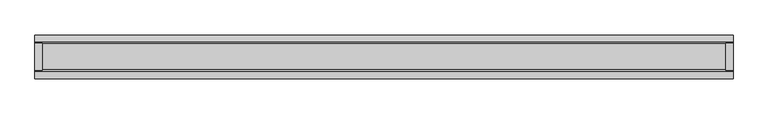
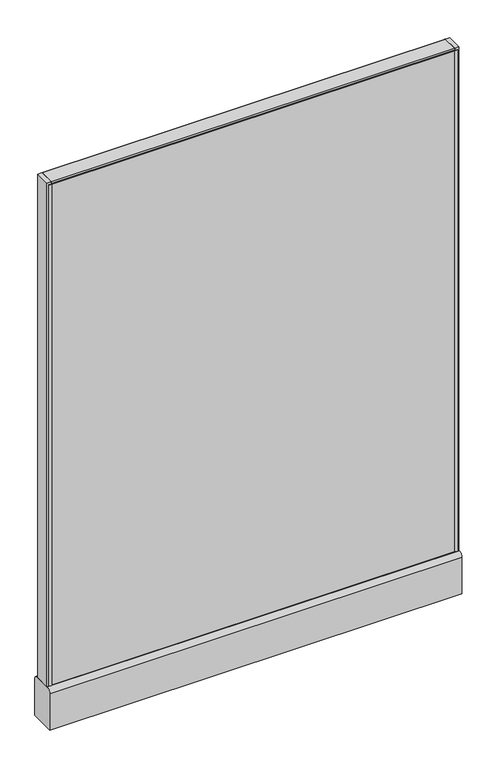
"""IFC4 building model written with IfcOpenShell, lengths in millimetres: furniture geometry."""

from ifc_helpers import new_model, si_unit, point, frame, frame_2d, origin, place, context, project, spatial, polyline, circle_curve, trimmed, segment, composite_curve, outline, extrude, source, transform, mapped, element, save
from ifc_brep_helpers import plane_surface, cylinder_surface, advanced_brep


def furniture_7109f743(model_context):
    return source(origin(), model_context, "Body", "SolidModel", [
        advanced_brep(
        [(552.45, 0.0, 0.0), (577.85, 0.0, 0.0), (565.15, 0.0, 0.0), (552.45, 0.0, 4.7625), (577.85, 0.0, 4.7625), (558.8, 0.0, 4.7625), (571.5, 0.0, 4.7625), (558.8, 0.0, 111.125), (571.5, 0.0, 111.125), (565.15, 0.0, 111.125)],
        [
            (0, 1, circle_curve(frame((565.15, 0.0, 0.0), z_axis=(0.0, 0.0, -1.0), x_axis=(1.0, 0.0, 0.0)), 12.7)),
            (1, 2),
            (2, 0),
            (1, 0, circle_curve(frame((565.15, 0.0, 0.0), z_axis=(0.0, 0.0, -1.0), x_axis=(1.0, 0.0, 0.0)), 12.7)),
            (3, 4, circle_curve(frame((565.15, 0.0, 4.7625), z_axis=(0.0, 0.0, -1.0), x_axis=(1.0, 0.0, 0.0)), 12.7)),
            (4, 1),
            (0, 3),
            (4, 3, circle_curve(frame((565.15, 0.0, 4.7625), z_axis=(0.0, 0.0, -1.0), x_axis=(1.0, 0.0, 0.0)), 12.7)),
            (5, 6, circle_curve(frame((565.15, 0.0, 4.7625), z_axis=(0.0, 0.0, -1.0), x_axis=(1.0, 0.0, 0.0)), 6.35)),
            (6, 4),
            (3, 5),
            (6, 5, circle_curve(frame((565.15, 0.0, 4.7625), z_axis=(0.0, 0.0, -1.0), x_axis=(1.0, 0.0, 0.0)), 6.35)),
            (7, 8, circle_curve(frame((565.15, 0.0, 111.125), z_axis=(0.0, 0.0, -1.0), x_axis=(1.0, 0.0, 0.0)), 6.35)),
            (8, 6),
            (5, 7),
            (8, 7, circle_curve(frame((565.15, 0.0, 111.125), z_axis=(0.0, 0.0, -1.0), x_axis=(1.0, 0.0, 0.0)), 6.35)),
            (9, 8),
            (7, 9),
        ],
        [
            plane_surface(frame((565.15, 0.0, 0.0), z_axis=(0.0, 0.0, -1.0), x_axis=(1.0, 0.0, 0.0))),
            cylinder_surface(frame((565.15, 0.0, 114.882153), z_axis=(0.0, 0.0, 1.0), x_axis=(1.0, 0.0, 0.0)), 12.7),
            plane_surface(frame((565.15, 0.0, 4.7625), z_axis=(0.0, 0.0, 1.0), x_axis=(1.0, 0.0, 0.0))),
            cylinder_surface(frame((565.15, 0.0, 114.882153), z_axis=(0.0, 0.0, 1.0), x_axis=(1.0, 0.0, 0.0)), 6.35),
            plane_surface(frame((565.15, 0.0, 111.125), z_axis=(0.0, 0.0, 1.0), x_axis=(1.0, 0.0, 0.0))),
        ],
        [
            (0, [[1, 2, 3]]),
            (0, [[4, -3, -2]]),
            (1, [[5, 6, -1, 7]]),
            (1, [[8, -7, -4, -6]]),
            (2, [[9, 10, -5, 11]]),
            (2, [[12, -11, -8, -10]]),
            (3, [[13, 14, -9, 15]]),
            (3, [[16, -15, -12, -14]]),
            (4, [[17, -13, 18]]),
            (4, [[-18, -16, -17]]),
        ],
    ),
        advanced_brep(
        [(-577.85, 0.0, 4.7625), (-552.45, 0.0, 4.7625), (-552.45, 0.0, 0.0), (-577.85, 0.0, 0.0), (-571.5, 0.0, 4.7625), (-558.8, 0.0, 4.7625), (-571.5, 0.0, 111.125), (-558.8, 0.0, 111.125), (-565.15, 0.0, 111.125), (-565.15, 0.0, 0.0)],
        [
            (0, 1, circle_curve(frame((-565.15, 0.0, 4.7625), z_axis=(0.0, 0.0, -1.0), x_axis=(1.0, 0.0, 0.0)), 12.7)),
            (1, 2),
            (2, 3, circle_curve(frame((-565.15, 0.0, 0.0), z_axis=(0.0, 0.0, 1.0), x_axis=(1.0, 0.0, 0.0)), 12.7)),
            (3, 0),
            (1, 0, circle_curve(frame((-565.15, 0.0, 4.7625), z_axis=(0.0, 0.0, -1.0), x_axis=(1.0, 0.0, 0.0)), 12.7)),
            (3, 2, circle_curve(frame((-565.15, 0.0, 0.0), z_axis=(0.0, 0.0, 1.0), x_axis=(1.0, 0.0, 0.0)), 12.7)),
            (4, 5, circle_curve(frame((-565.15, 0.0, 4.7625), z_axis=(0.0, 0.0, -1.0), x_axis=(1.0, 0.0, 0.0)), 6.35)),
            (5, 1),
            (0, 4),
            (5, 4, circle_curve(frame((-565.15, 0.0, 4.7625), z_axis=(0.0, 0.0, -1.0), x_axis=(1.0, 0.0, 0.0)), 6.35)),
            (6, 7, circle_curve(frame((-565.15, 0.0, 111.125), z_axis=(0.0, 0.0, -1.0), x_axis=(1.0, 0.0, 0.0)), 6.35)),
            (7, 5),
            (4, 6),
            (7, 6, circle_curve(frame((-565.15, 0.0, 111.125), z_axis=(0.0, 0.0, -1.0), x_axis=(1.0, 0.0, 0.0)), 6.35)),
            (8, 7),
            (6, 8),
            (2, 9),
            (9, 3),
        ],
        [
            cylinder_surface(frame((-565.15, 0.0, 123.825), z_axis=(0.0, 0.0, 1.0), x_axis=(1.0, 0.0, 0.0)), 12.7),
            plane_surface(frame((-565.15, 0.0, 4.7625), z_axis=(0.0, 0.0, 1.0), x_axis=(1.0, 0.0, 0.0))),
            cylinder_surface(frame((-565.15, 0.0, 123.825), z_axis=(0.0, 0.0, 1.0), x_axis=(1.0, 0.0, 0.0)), 6.35),
            plane_surface(frame((-565.15, 0.0, 111.125), z_axis=(0.0, 0.0, 1.0), x_axis=(1.0, 0.0, 0.0))),
            plane_surface(frame((-565.15, 0.0, 0.0), z_axis=(0.0, 0.0, -1.0), x_axis=(1.0, 0.0, 0.0))),
        ],
        [
            (0, [[1, 2, 3, 4]]),
            (0, [[5, -4, 6, -2]]),
            (1, [[7, 8, -1, 9]]),
            (1, [[10, -9, -5, -8]]),
            (2, [[11, 12, -7, 13]]),
            (2, [[14, -13, -10, -12]]),
            (3, [[15, -11, 16]]),
            (3, [[-16, -14, -15]]),
            (4, [[-3, 17, 18]]),
            (4, [[-6, -18, -17]]),
        ],
    ),
        extrude(outline(polyline([(-609.6, 23.8125), (-596.9, 23.8125), (-596.9, -23.8125), (-609.6, -23.8125), (-609.6, 23.8125)])), frame((0.0, 0.0, 136.525), z_axis=(0.0, 0.0, 1.0), x_axis=(1.0, 0.0, 0.0)), (0.0, 0.0, 1.0), 1574.8),
        extrude(outline(polyline([(596.9, -23.8125), (596.9, 23.8125), (609.6, 23.8125), (609.6, -23.8125), (596.9, -23.8125)])), frame((0.0, 0.0, 136.525), z_axis=(0.0, 0.0, 1.0), x_axis=(1.0, 0.0, 0.0)), (0.0, 0.0, 1.0), 1574.8),
        extrude(outline(polyline([(-596.9, 25.4), (-596.9, 23.8125), (-604.8375, 23.8125), (-604.8375, 25.4), (-596.9, 25.4)])), frame((0.0, 0.0, 136.525), z_axis=(0.0, 0.0, 1.0), x_axis=(1.0, 0.0, 0.0)), (0.0, 0.0, 1.0), 1568.45),
        extrude(outline(polyline([(-596.9, -25.4), (-604.8375, -25.4), (-604.8375, -23.8125), (-596.9, -23.8125), (-596.9, -25.4)])), frame((0.0, 0.0, 136.525), z_axis=(0.0, 0.0, 1.0), x_axis=(1.0, 0.0, 0.0)), (0.0, 0.0, 1.0), 1568.45),
        extrude(outline(polyline([(604.8375, 23.8125), (596.9, 23.8125), (596.9, 25.4), (604.8375, 25.4), (604.8375, 23.8125)])), frame((0.0, 0.0, 136.525), z_axis=(0.0, 0.0, 1.0), x_axis=(1.0, 0.0, 0.0)), (0.0, 0.0, 1.0), 1568.45),
        extrude(outline(polyline([(596.9, -25.4), (596.9, -23.8125), (604.8375, -23.8125), (604.8375, -25.4), (596.9, -25.4)])), frame((0.0, 0.0, 136.525), z_axis=(0.0, 0.0, 1.0), x_axis=(1.0, 0.0, 0.0)), (0.0, 0.0, 1.0), 1568.45),
        extrude(outline(composite_curve([segment(trimmed(circle_curve(frame_2d((22.225, 1708.15)), 3.175), [point((22.225, 1711.325))], [point((25.4, 1708.15))], False, "CARTESIAN"), True, "CONTINUOUS"), segment(polyline([(25.4, 1708.15), (25.4, 1704.975), (-25.4, 1704.975), (-25.4, 1708.15)]), True, "CONTINUOUS"), segment(trimmed(circle_curve(frame_2d((-22.225, 1708.15)), 3.175), [point((-25.4, 1708.15))], [point((-22.225, 1711.325))], False, "CARTESIAN"), True, "CONTINUOUS"), segment(polyline([(-22.225, 1711.325), (22.225, 1711.325)]), True, "CONTINUOUS")], self_intersect=False)), frame((-596.9, 0.0, 0.0), z_axis=(1.0, 0.0, 0.0), x_axis=(0.0, 1.0, 0.0)), (0.0, 0.0, 1.0), 1193.8),
        extrude(outline(composite_curve([segment(trimmed(circle_curve(frame_2d((25.4, 123.825)), 12.7), [point((25.4, 136.525))], [point((38.1, 123.825))], False, "CARTESIAN"), True, "CONTINUOUS"), segment(polyline([(38.1, 123.825), (38.1, 9.525), (-38.1, 9.525), (-38.1, 123.825)]), True, "CONTINUOUS"), segment(trimmed(circle_curve(frame_2d((-25.4, 123.825)), 12.7), [point((-38.1, 123.825))], [point((-25.4, 136.525))], False, "CARTESIAN"), True, "CONTINUOUS"), segment(polyline([(-25.4, 136.525), (25.4, 136.525)]), True, "CONTINUOUS")], self_intersect=False)), frame((-609.6, 0.0, 0.0), z_axis=(1.0, 0.0, 0.0), x_axis=(0.0, 1.0, 0.0)), (0.0, 0.0, 1.0), 1219.2),
        extrude(outline(polyline([(596.9, 23.8125), (596.9, -23.8125), (-596.9, -23.8125), (-596.9, 23.8125), (596.9, 23.8125)])), frame((0.0, 0.0, 136.525), z_axis=(0.0, 0.0, 1.0), x_axis=(1.0, 0.0, 0.0)), (0.0, 0.0, 1.0), 1568.45),
    ])


if __name__ == "__main__":
    model = new_model("IFC4")
    model_context = context("Model", 3, world=origin())
    ifc_project = project(units=[si_unit("LENGTHUNIT", "METRE", prefix="MILLI")], contexts=[model_context])
    site = spatial("IfcSite", under=ifc_project)
    building = spatial("IfcBuilding", under=site)
    placement = place(None, origin())
    furniture_shape = furniture_7109f743(model_context)
    element("IfcFurniture", 1, ObjectType="HermanMiller_ActionOffice_A1110_Hard-SurfacedPanelStandardBase : 67\"H x 48\"W-N", at=placement, inside=building, context=model_context, shape_type="MappedRepresentation", body=[
        mapped(furniture_shape, transform((0.0, 0.0, 0.0), x_axis=(1.0, 0.0, 0.0), y_axis=(0.0, 1.0, 0.0), z_axis=(0.0, 0.0, 1.0))),
    ])
    save(model, "model.ifc")
